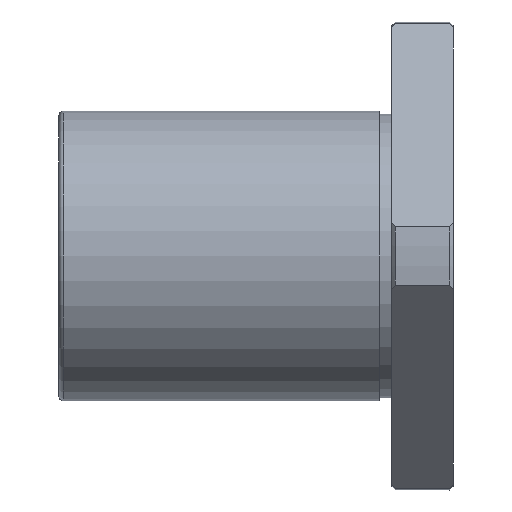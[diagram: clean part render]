
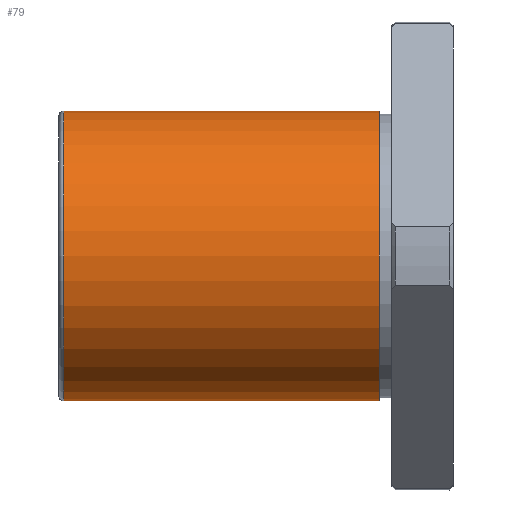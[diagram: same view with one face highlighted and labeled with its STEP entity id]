
A CAD part, front view. The second image highlights one B-rep face of the part: STEP entity #79.
In plain terms, the highlighted cylindrical face has radius 23.5 mm (diameter 47 mm), a full revolution.
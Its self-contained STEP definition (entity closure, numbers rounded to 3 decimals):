
#79=ADVANCED_FACE('',(#126,#127),#128,.T.);
#126=FACE_OUTER_BOUND('',#226,.T.);
#127=FACE_OUTER_BOUND('',#227,.T.);
#128=CYLINDRICAL_SURFACE('',#228,23.5);
#226=EDGE_LOOP('',(#355));
#227=EDGE_LOOP('',(#356));
#228=AXIS2_PLACEMENT_3D('',#357,#358,#359);
#355=ORIENTED_EDGE('',*,*,#590,.F.);
#356=ORIENTED_EDGE('',*,*,#591,.T.);
#357=CARTESIAN_POINT('',(-37.6,0.,0.));
#358=DIRECTION('',(-1.0,-0.0,0.));
#359=DIRECTION('',(0.0,1.0,0.0));
#590=EDGE_CURVE('',#687,#687,#688,.T.);
#591=EDGE_CURVE('',#689,#689,#690,.T.);
#687=VERTEX_POINT('',#895);
#688=CIRCLE('',#896,23.5);
#689=VERTEX_POINT('',#897);
#690=CIRCLE('',#898,23.5);
#895=CARTESIAN_POINT('',(-63.2,23.5,0.));
#896=AXIS2_PLACEMENT_3D('',#1085,#1086,#1087);
#897=CARTESIAN_POINT('',(-12.0,23.5,0.0));
#898=AXIS2_PLACEMENT_3D('',#1088,#1089,#1090);
#1085=CARTESIAN_POINT('',(-63.2,0.,0.));
#1086=DIRECTION('',(-1.0,0.0,0.));
#1087=DIRECTION('',(0.0,1.0,0.0));
#1088=CARTESIAN_POINT('',(-12.0,0.,0.0));
#1089=DIRECTION('',(-1.0,0.0,0.));
#1090=DIRECTION('',(0.0,1.0,0.0));
